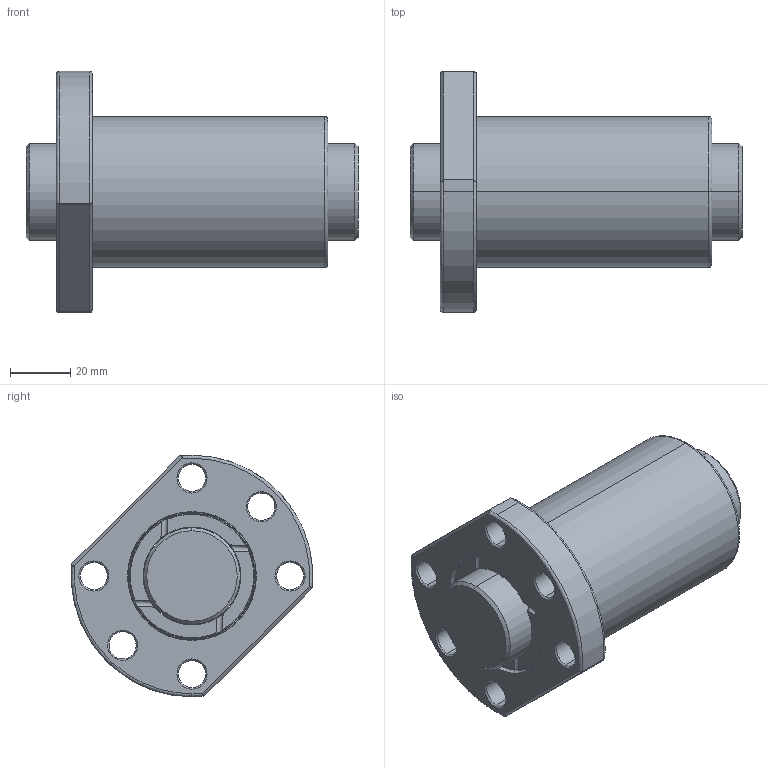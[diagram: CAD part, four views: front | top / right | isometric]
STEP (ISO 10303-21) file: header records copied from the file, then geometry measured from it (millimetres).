
FILE_DESCRIPTION (( 'STEP AP203' ), '1' );
FILE_NAME ('SFUR03210T4D-C.STEP', '2020-06-16T07:33:15', ( '' ), ( '' ), 'SwSTEP 2.0', 'SolidWorks 2013', '' );
FILE_SCHEMA (( 'CONFIG_CONTROL_DESIGN' ));
Length unit declared in the file: millimetre
Products named in the file (1): SFUR03210T4D-C
Bounding box: 110 x 79.84 x 80 mm (x, y, z)
Volume: 201161.6 mm3; surface area: 50221.2 mm2
Topology: 2 solids, 2 shells, 129 faces, 333 edges, 208 vertices
Faces by surface type: cylinder 55, plane 28, torus 18, cone 16, bspline 12
Entity records: 6064 total; most frequent: CARTESIAN_POINT 2946, ORIENTED_EDGE 658, DIRECTION 611, EDGE_CURVE 329, AXIS2_PLACEMENT_3D 258, VERTEX_POINT 208, EDGE_LOOP 151, CIRCLE 140
